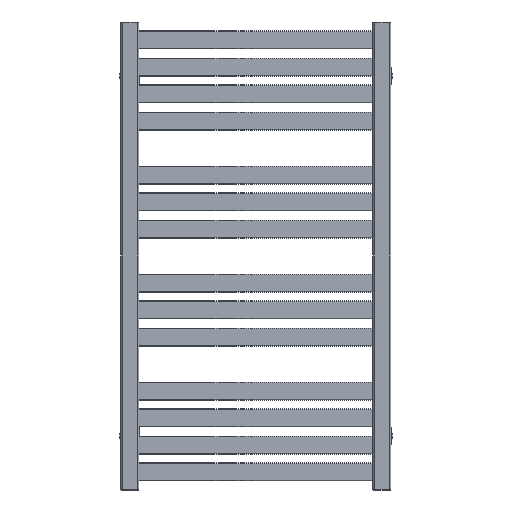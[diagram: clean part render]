
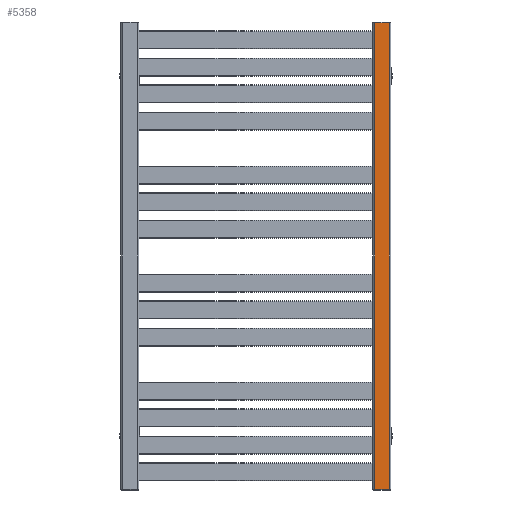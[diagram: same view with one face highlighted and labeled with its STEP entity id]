
A CAD part, front view. The second image highlights one B-rep face of the part: STEP entity #5358.
In plain terms, the highlighted planar face has unit normal (0, -1, 0).
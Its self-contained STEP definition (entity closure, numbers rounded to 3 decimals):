
#4104=CARTESIAN_POINT('',(198.,-15.,1.5));
#4105=VERTEX_POINT('',#4104);
#4162=CARTESIAN_POINT('',(222.,-15.,1.5));
#4163=VERTEX_POINT('',#4162);
#4171=CARTESIAN_POINT('',(222.,-15.,1.5));
#4172=DIRECTION('',(-1.0,0.0,0.0));
#4173=VECTOR('',#4172,24.);
#4174=LINE('',#4171,#4173);
#4175=EDGE_CURVE('',#4163,#4105,#4174,.T.);
#4743=CARTESIAN_POINT('',(198.,-15.,778.5));
#4744=VERTEX_POINT('',#4743);
#4745=CARTESIAN_POINT('',(198.,-15.,1.5));
#4746=DIRECTION('',(0.0,0.0,1.0));
#4747=VECTOR('',#4746,777.0);
#4748=LINE('',#4745,#4747);
#4749=EDGE_CURVE('',#4105,#4744,#4748,.T.);
#4961=CARTESIAN_POINT('',(222.,-15.,778.5));
#4962=VERTEX_POINT('',#4961);
#4978=CARTESIAN_POINT('',(198.,-15.,778.5));
#4979=DIRECTION('',(1.0,0.0,0.0));
#4980=VECTOR('',#4979,24.);
#4981=LINE('',#4978,#4980);
#4982=EDGE_CURVE('',#4744,#4962,#4981,.T.);
#5338=CARTESIAN_POINT('',(222.,-15.,778.5));
#5339=DIRECTION('',(0.0,0.0,-1.0));
#5340=VECTOR('',#5339,777.0);
#5341=LINE('',#5338,#5340);
#5342=EDGE_CURVE('',#4962,#4163,#5341,.T.);
#5347=CARTESIAN_POINT('',(225.,-15.,0.0));
#5348=DIRECTION('',(0.0,-1.0,0.0));
#5349=DIRECTION('',(0.0,0.0,-1.0));
#5350=AXIS2_PLACEMENT_3D('',#5347,#5348,#5349);
#5351=PLANE('',#5350);
#5352=ORIENTED_EDGE('',*,*,#4175,.F.);
#5353=ORIENTED_EDGE('',*,*,#5342,.F.);
#5354=ORIENTED_EDGE('',*,*,#4982,.F.);
#5355=ORIENTED_EDGE('',*,*,#4749,.F.);
#5356=EDGE_LOOP('',(#5352,#5353,#5354,#5355));
#5357=FACE_OUTER_BOUND('',#5356,.T.);
#5358=ADVANCED_FACE('',(#5357),#5351,.T.);
